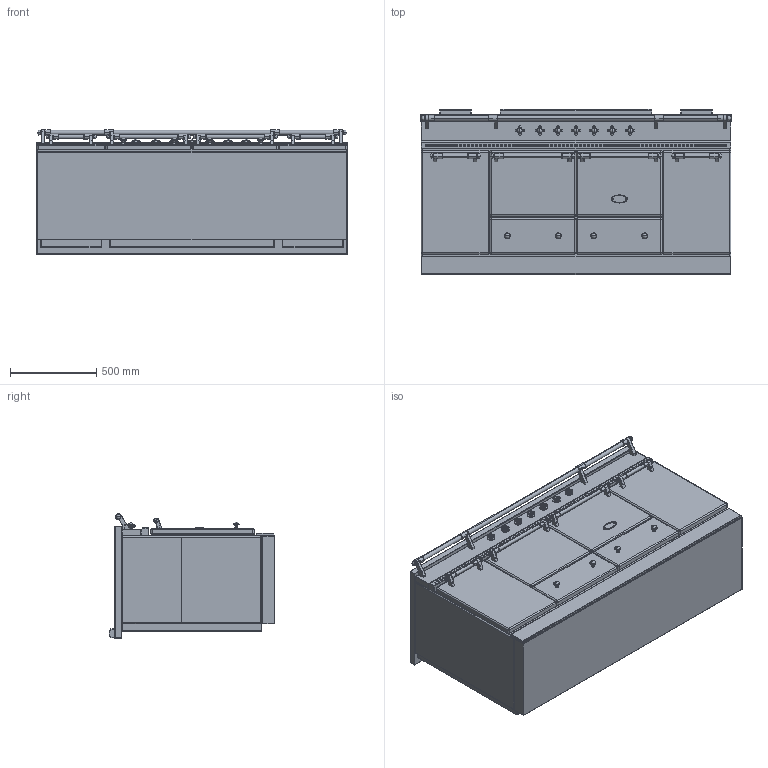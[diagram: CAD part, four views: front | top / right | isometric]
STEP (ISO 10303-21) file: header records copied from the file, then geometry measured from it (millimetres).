
FILE_DESCRIPTION((''),'2;1');
FILE_NAME('LVI1852_ASM','2021-12-01T16:13:23',('r.avril'),(''),'CREO PARAMETRIC BY PTC INC, 2017260','CREO PARAMETRIC BY PTC INC, 2017260','');
FILE_SCHEMA(('AP203_CONFIGURATION_CONTROLLED_3D_DESIGN_OF_MECHANICAL_PARTS_AND_ASSEMBLIES_MIM_LF { 1 0 10303 403 2 1 2 }'));
Products named in the file (21): BASE_EXPORT_CLUNY_1800; 65650003; 65650004; 6531940; 6531941; 6531943; 6538399; 1931942; 65080022_AF0; 6531942_ASM; 65049009; 65650001; 65650006; 65650007; BASE_EXPORT_CLUNY_1800_ASM; TABLE_1805_INDUCTION; 65052013; CHEMINEE_2020_LG182_EXPORT_STEP; CHEMINEE_2020_LG882_EXPORT_STEP; TABLE_1805_INDUCTION_ASM; LVI1852_ASM
Assembly tree (36 placements, depth 4):
  LVI1852_ASM
    BASE_EXPORT_CLUNY_1800_ASM
      BASE_EXPORT_CLUNY_1800
      65650003
      65650004
      6531940  x4
      6531941  x4
      6531943  x4
      6531942_ASM  x7
        6538399
        1931942
        65080022_AF0
      65049009
      65650001
      65650006
      65650007
    TABLE_1805_INDUCTION_ASM
      TABLE_1805_INDUCTION
      65052013
      CHEMINEE_2020_LG182_EXPORT_STEP  x2
      CHEMINEE_2020_LG882_EXPORT_STEP
Bounding box: 1805 x 963 x 724 mm (x, y, z)
Volume: 664715226.4 mm3; surface area: 16089554.4 mm2
Topology: 54 solids, 70 shells, 6208 faces, 16848 edges, 10797 vertices
Faces by surface type: plane 3196, cylinder 2086, torus 285, sphere 206, extrusion 198, bspline 110, cone 107, revolution 20
Entity records: 141988 total; most frequent: CARTESIAN_POINT 30176, ORIENTED_EDGE 20356, DIRECTION 19682, EDGE_CURVE 10192, VECTOR 6882, LINE 6852, VERTEX_POINT 6611, AXIS2_PLACEMENT_3D 6366
